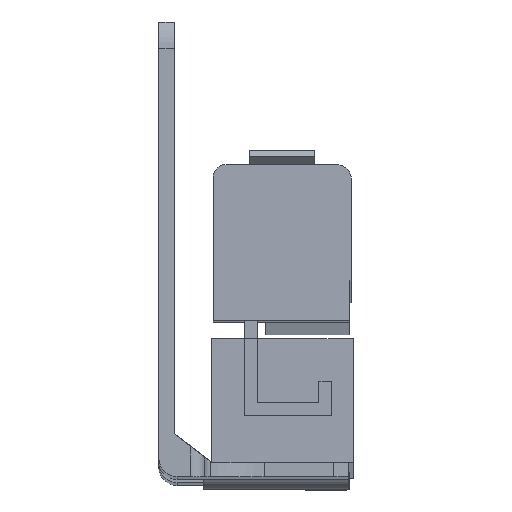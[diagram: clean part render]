
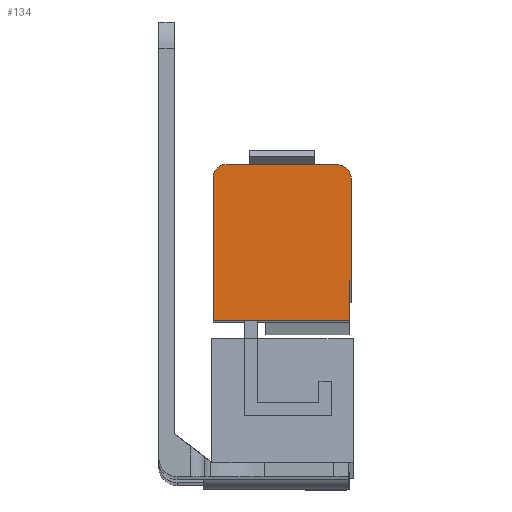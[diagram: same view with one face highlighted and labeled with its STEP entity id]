
A CAD part, front view. The second image highlights one B-rep face of the part: STEP entity #134.
In plain terms, the highlighted planar face has unit normal (0, -1, 0.005).
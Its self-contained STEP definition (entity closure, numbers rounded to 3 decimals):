
#134 = ADVANCED_FACE ( 'NONE', ( #578 ), #1586, .T. ) ;
#337 = EDGE_LOOP ( 'NONE', ( #4394, #4396, #4397, #4398, #4399, #4358, #4382, #4409 ) ) ;
#578 = FACE_OUTER_BOUND ( 'NONE', #337, .T. ) ;
#1190 = LINE ( 'NONE', #2688, #1191 ) ;
#1191 = VECTOR ( 'NONE', #2689, 1000. ) ;
#1200 = LINE ( 'NONE', #2698, #1201 ) ;
#1201 = VECTOR ( 'NONE', #2699, 1000. ) ;
#1205 = CIRCLE ( 'NONE', #2615, 2.05 ) ;
#1208 = CIRCLE ( 'NONE', #2616, 1.75 ) ;
#1214 = LINE ( 'NONE', #2716, #1215 ) ;
#1215 = VECTOR ( 'NONE', #2717, 1000. ) ;
#1216 = LINE ( 'NONE', #2718, #1217 ) ;
#1217 = VECTOR ( 'NONE', #2719, 1000. ) ;
#1222 = LINE ( 'NONE', #2724, #1223 ) ;
#1223 = VECTOR ( 'NONE', #2725, 1000. ) ;
#1224 = LINE ( 'NONE', #2726, #1225 ) ;
#1225 = VECTOR ( 'NONE', #2727, 1000. ) ;
#1586 = PLANE ( 'NONE',  #2497 ) ;
#1587 = CARTESIAN_POINT ( 'NONE',  ( 9.25, -22.183, -6.425 ) ) ;
#1588 = DIRECTION ( 'NONE',  ( 0., -1., 0.005 ) ) ;
#1589 = DIRECTION ( 'NONE',  ( 0., -0.005, -1. ) ) ;
#2497 = AXIS2_PLACEMENT_3D ( 'NONE', #1587, #1588, #1589 ) ;
#2615 = AXIS2_PLACEMENT_3D ( 'NONE', #2702, #2703, #2704 ) ;
#2616 = AXIS2_PLACEMENT_3D ( 'NONE', #2707, #2708, #2709 ) ;
#2688 = CARTESIAN_POINT ( 'NONE',  ( 9.25, -22.174, -4.675 ) ) ;
#2689 = DIRECTION ( 'NONE',  ( -1., 0., 0. ) ) ;
#2698 = CARTESIAN_POINT ( 'NONE',  ( 26.5, -22.185, -6.725 ) ) ;
#2699 = DIRECTION ( 'NONE',  ( 0., 0.005, 1. ) ) ;
#2702 = CARTESIAN_POINT ( 'NONE',  ( 24.45, -22.185, -6.725 ) ) ;
#2703 = DIRECTION ( 'NONE',  ( 0., -1., 0.005 ) ) ;
#2704 = DIRECTION ( 'NONE',  ( 0., 0.005, 1. ) ) ;
#2707 = CARTESIAN_POINT ( 'NONE',  ( 9.25, -22.183, -6.425 ) ) ;
#2708 = DIRECTION ( 'NONE',  ( 0., -1., 0.005 ) ) ;
#2709 = DIRECTION ( 'NONE',  ( 0., -0.005, -1. ) ) ;
#2716 = CARTESIAN_POINT ( 'NONE',  ( 7.5, -22.183, -6.425 ) ) ;
#2717 = DIRECTION ( 'NONE',  ( 0., -0.005, -1. ) ) ;
#2718 = CARTESIAN_POINT ( 'NONE',  ( 7.5, -22.258, -20.675 ) ) ;
#2719 = DIRECTION ( 'NONE',  ( 1., 0., 0. ) ) ;
#2724 = CARTESIAN_POINT ( 'NONE',  ( 26.25, -22.287, -26.175 ) ) ;
#2725 = DIRECTION ( 'NONE',  ( 1., 0., 0. ) ) ;
#2726 = CARTESIAN_POINT ( 'NONE',  ( 26.25, -22.287, -26.175 ) ) ;
#2727 = DIRECTION ( 'NONE',  ( 0., 0.005, 1. ) ) ;
#2956 = CARTESIAN_POINT ( 'NONE',  ( 7.5, -22.183, -6.425 ) ) ;
#2957 = CARTESIAN_POINT ( 'NONE',  ( 26.5, -22.258, -20.675 ) ) ;
#2958 = CARTESIAN_POINT ( 'NONE',  ( 7.5, -22.287, -26.175 ) ) ;
#3002 = CARTESIAN_POINT ( 'NONE',  ( 9.25, -22.174, -4.675 ) ) ;
#3004 = CARTESIAN_POINT ( 'NONE',  ( 24.45, -22.174, -4.675 ) ) ;
#3023 = CARTESIAN_POINT ( 'NONE',  ( 26.25, -22.287, -26.175 ) ) ;
#3029 = CARTESIAN_POINT ( 'NONE',  ( 26.5, -22.185, -6.725 ) ) ;
#3030 = CARTESIAN_POINT ( 'NONE',  ( 26.25, -22.258, -20.675 ) ) ;
#3587 = EDGE_CURVE ( 'NONE', #4688, #4686, #1190, .T. ) ;
#3592 = EDGE_CURVE ( 'NONE', #4641, #4713, #1200, .T. ) ;
#3594 = EDGE_CURVE ( 'NONE', #4713, #4688, #1205, .T. ) ;
#3596 = EDGE_CURVE ( 'NONE', #4686, #4640, #1208, .T. ) ;
#3600 = EDGE_CURVE ( 'NONE', #4640, #4642, #1214, .T. ) ;
#3601 = EDGE_CURVE ( 'NONE', #4714, #4641, #1216, .T. ) ;
#3604 = EDGE_CURVE ( 'NONE', #4642, #4707, #1222, .T. ) ;
#3605 = EDGE_CURVE ( 'NONE', #4707, #4714, #1224, .T. ) ;
#4358 = ORIENTED_EDGE ( 'NONE', *, *, #3604, .T. ) ;
#4382 = ORIENTED_EDGE ( 'NONE', *, *, #3605, .T. ) ;
#4394 = ORIENTED_EDGE ( 'NONE', *, *, #3592, .T. ) ;
#4396 = ORIENTED_EDGE ( 'NONE', *, *, #3594, .T. ) ;
#4397 = ORIENTED_EDGE ( 'NONE', *, *, #3587, .T. ) ;
#4398 = ORIENTED_EDGE ( 'NONE', *, *, #3596, .T. ) ;
#4399 = ORIENTED_EDGE ( 'NONE', *, *, #3600, .T. ) ;
#4409 = ORIENTED_EDGE ( 'NONE', *, *, #3601, .T. ) ;
#4640 = VERTEX_POINT ( 'NONE', #2956 ) ;
#4641 = VERTEX_POINT ( 'NONE', #2957 ) ;
#4642 = VERTEX_POINT ( 'NONE', #2958 ) ;
#4686 = VERTEX_POINT ( 'NONE', #3002 ) ;
#4688 = VERTEX_POINT ( 'NONE', #3004 ) ;
#4707 = VERTEX_POINT ( 'NONE', #3023 ) ;
#4713 = VERTEX_POINT ( 'NONE', #3029 ) ;
#4714 = VERTEX_POINT ( 'NONE', #3030 ) ;
